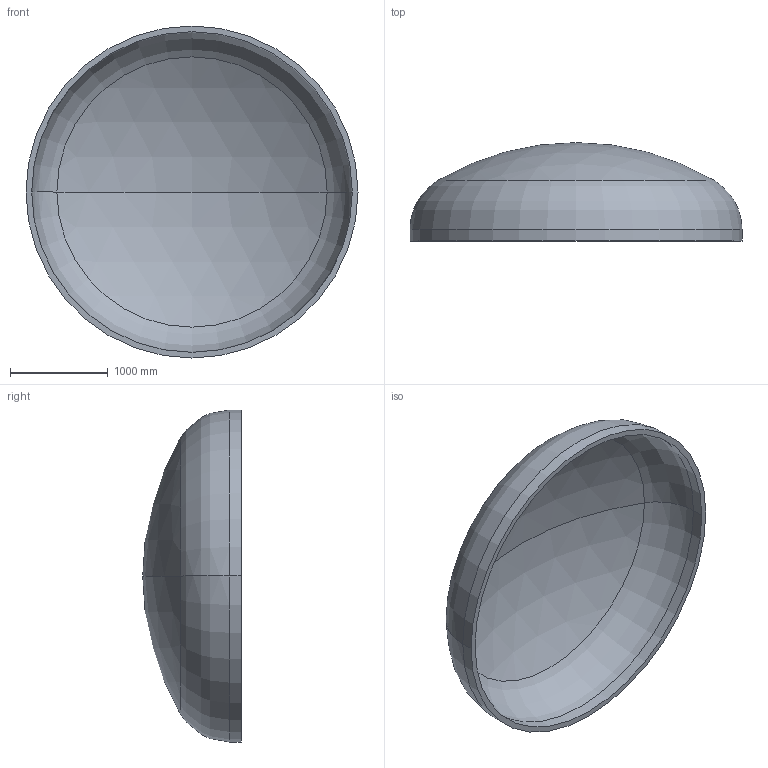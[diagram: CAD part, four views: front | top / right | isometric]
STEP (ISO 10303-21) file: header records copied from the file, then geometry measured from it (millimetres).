
FILE_DESCRIPTION (( 'STEP AP203' ), '1' );
FILE_NAME ('DIN 28013 Korbbogenform_-_Boden DIN 28013 - 3400 x 120 - I - s=58.step', '2016-07-01T19:38:15', ( '' ), ( '' ), 'SwSTEP 2.0', 'SolidWorks 2013', '' );
FILE_SCHEMA (( 'CONFIG_CONTROL_DESIGN' ));
Length unit declared in the file: millimetre
Products named in the file (1): DIN 28013 Korbbogenform_-_Boden DIN 28013 - 3400 x 120 - I - s=58
Bounding box: 3400 x 1008.47 x 3400 mm (x, y, z)
Volume: 786548754.4 mm3; surface area: 27738360.7 mm2
Topology: 1 solids, 1 shells, 13 faces, 24 edges, 14 vertices
Faces by surface type: torus 4, cylinder 4, sphere 4, plane 1
Entity records: 407 total; most frequent: DIRECTION 72, CARTESIAN_POINT 52, ORIENTED_EDGE 48, AXIS2_PLACEMENT_3D 34, EDGE_CURVE 24, CIRCLE 20, EDGE_LOOP 14, VERTEX_POINT 14
